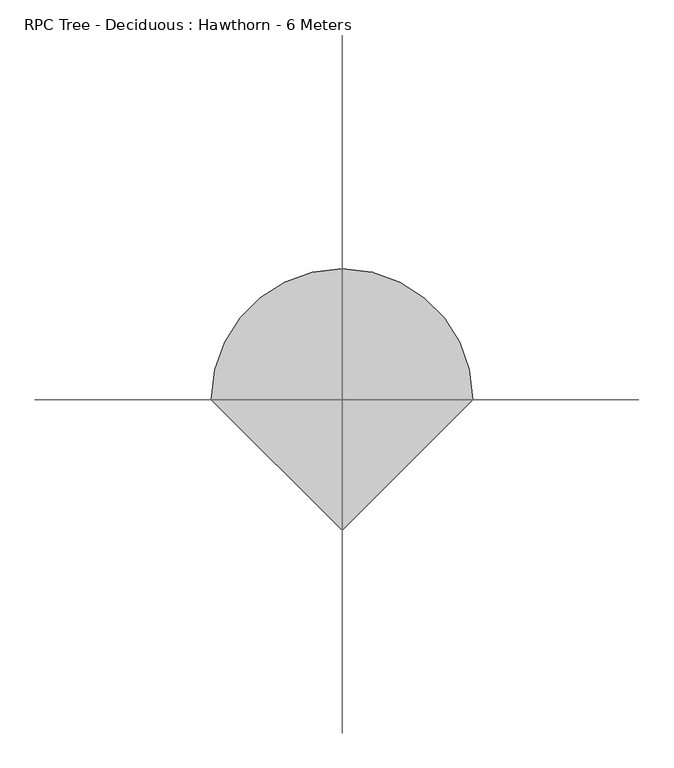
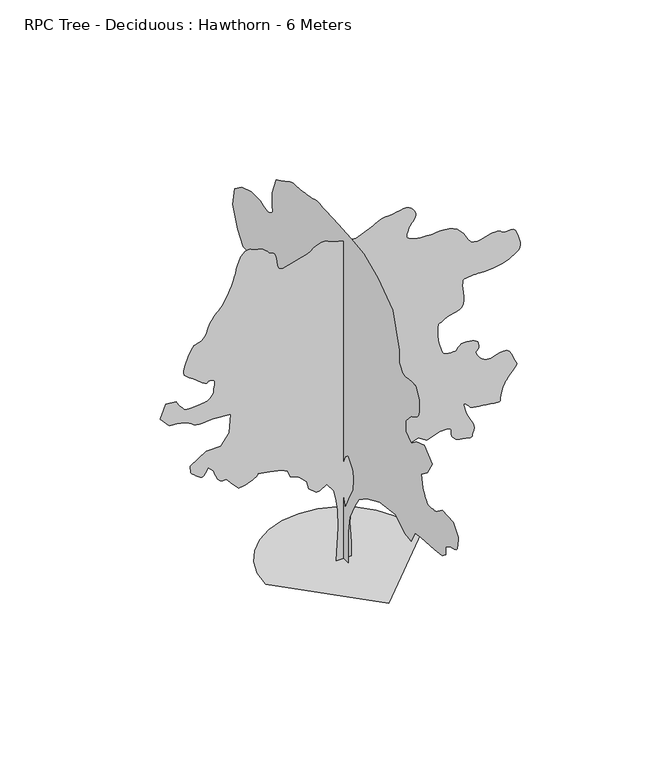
"""IFC4 building model written with IfcOpenShell, lengths in millimetres: geographic element geometry, RPC Tree - Deciduous : Hawthorn - 6 Meters."""

from ifc_helpers import new_model, si_unit, origin, place, context, project, spatial, triangles, source, transform, mapped, element, save


def rpc_tree_deciduous_hawthorn_6_meters_b5c31be1(model_context):
    return source(origin(), model_context, "Body", "Tessellation", [
        triangles([(125.3016722, -0.0003108, 0.0152031), (-121.3314749, -0.0003108, 0.0152031), (-86.0977153, -0.0002761, 581.3634241), (-94.9063073, -0.0002583, 880.8471062), (-130.1392676, -0.0002446, 1109.8629238), (-165.3730272, -0.0002362, 1250.7967632), (-279.8797188, -0.0002268, 1409.3465332), (-394.3895897, -0.0002315, 1330.0707035), (-456.0475267, -0.000232, 1321.2626656), (-579.3634372, -0.0002257, 1426.9626091), (-614.5973694, -0.0002173, 1567.8964485), (-737.9132435, -0.00021, 1691.2123226), (-887.6551208, -0.0002063, 1752.870187), (-931.6970547, -0.0002, 1858.5701305), (-1028.5889603, -0.0001968, 1911.4201023), (-1231.1787746, -0.0001942, 1955.4620361), (-1433.7706238, -0.0001921, 1990.6940426), (-1432.1785698, -0.0001926, 1983.0680546), (-1432.3585007, -0.000193, 1974.9779961), (-1436.0825466, -0.0001936, 1965.9640114), (-1445.1225471, -0.0001942, 1955.5640648), (-1461.2485977, -0.0001949, 1943.3140858), (-1486.236462, -0.0001958, 1928.7540733), (-1521.8544914, -0.0001968, 1911.4201023), (-1561.5804096, -0.0001978, 1894.6000534), (-1598.0723682, -0.0001986, 1881.4761452), (-1631.8663811, -0.0001992, 1871.4360603), (-1663.5063103, -0.0001997, 1863.8600693), (-1693.5262802, -0.0002, 1858.1341106), (-1722.4662289, -0.0002003, 1853.6401989), (-1750.8703091, -0.0002005, 1849.7620926), (-1847.7622147, -0.0001942, 1955.4620361), (-1953.4620129, -0.0001869, 2078.7779102), (-1974.2120544, -0.0001871, 2075.2378647), (-1994.8840485, -0.0001872, 2073.0779675), (-2015.3979126, -0.0001872, 2073.6979877), (-2035.6979816, -0.0001869, 2078.4779285), (-2055.6780121, -0.0001863, 2088.7979382), (-2075.2579216, -0.0001852, 2106.0579311), (-2094.397887, -0.0001837, 2131.6178535), (-2111.737817, -0.000182, 2160.7979038), (-2126.2978294, -0.0001803, 2188.1177479), (-2138.5379253, -0.0001788, 2213.897715), (-2148.9378719, -0.0001773, 2238.4576984), (-2157.9578156, -0.0001759, 2262.0777683), (-2166.0378456, -0.0001746, 2285.0977295), (-2173.6777863, -0.0001732, 2307.7976521), (-2252.9377739, -0.0001685, 2387.0775513), (-2305.7976288, -0.0001732, 2307.7976521), (-2315.3377441, -0.0001741, 2292.9177464), (-2325.5977283, -0.0001749, 2279.4377552), (-2337.2176586, -0.0001755, 2268.7376816), (-2350.937606, -0.0001759, 2262.1777622), (-2367.4177048, -0.000176, 2261.1776779), (-2387.3776783, -0.0001756, 2267.1177223), (-2411.4975723, -0.0001748, 2281.3777531), (-2438.2175983, -0.0001736, 2301.5776829), (-2464.6574089, -0.0001723, 2323.3376919), (-2489.3774117, -0.000171, 2344.9376816), (-2511.0374268, -0.0001698, 2364.6776104), (-2528.2174828, -0.0001689, 2380.877639), (-2539.5374313, -0.0001682, 2391.8375805), (-2543.6174149, -0.000168, 2395.8775955), (-2552.4174591, -0.0001606, 2519.1973938), (-2288.177774, -0.0001506, 2686.5572365), (-2050.357988, -0.0001501, 2695.3572807), (-1909.420079, -0.0001391, 2880.3369781), (-1882.9940758, -0.0001202, 3197.4368088), (-2173.6777863, -0.0001186, 3223.8567078), (-2235.7378063, -0.000119, 3216.5568626), (-2296.4977604, -0.0001194, 3210.816806), (-2354.6376709, -0.0001195, 3208.1367371), (-2408.8576172, -0.0001194, 3210.0967918), (-2457.8174194, -0.0001189, 3218.2166451), (-2500.2375046, -0.000118, 3234.0369003), (-2534.8173706, -0.0001165, 3259.0967079), (-2569.6373383, -0.0001149, 3285.9566963), (-2612.7774376, -0.0001137, 3306.7967033), (-2662.8572296, -0.0001127, 3322.6567818), (-2718.4773811, -0.000112, 3334.4967567), (-2778.2571625, -0.0001115, 3343.3165672), (-2840.8172974, -0.0001111, 3350.1565567), (-2904.7569992, -0.0001107, 3355.9765503), (-3054.4969872, -0.0001008, 3523.336393), (-2966.4168983, -8.71e-05, 3752.3561348), (-2790.2573021, -8.82e-05, 3734.7362801), (-2778.8771828, -8.94e-05, 3714.0163239), (-2767.1973724, -9.06e-05, 3693.5164124), (-2754.8972511, -9.18e-05, 3673.4964134), (-2741.6573616, -9.3e-05, 3654.1563148), (-2727.1971977, -9.41e-05, 3635.7365089), (-2711.1973022, -9.51e-05, 3618.4962822), (-2693.3574028, -9.6e-05, 3602.6164375), (-2679.9774055, -9.69e-05, 3587.6365379), (-2673.6972656, -9.78e-05, 3573.4365326), (-2668.6374001, -9.85e-05, 3560.7765495), (-2658.9574677, -9.91e-05, 3550.436483), (-2638.797361, -9.96e-05, 3543.176461), (-2602.2972633, -9.98e-05, 3539.756321), (-2543.6174149, -9.97e-05, 3540.9565384), (-2478.5774895, -9.95e-05, 3544.7365402), (-2425.5375584, -9.93e-05, 3548.5165421), (-2382.5176552, -9.9e-05, 3552.276487), (-2347.5176113, -9.88e-05, 3556.0564888), (-2318.5376942, -9.86e-05, 3559.8364906), (-2293.5377666, -9.84e-05, 3563.6164925), (-2270.557774, -9.81e-05, 3567.3764374), (-2248.0576939, -9.71e-05, 3584.4564995), (-2226.497818, -9.61e-05, 3602.0763542), (-2206.7778008, -9.5e-05, 3620.7763756), (-2189.8177895, -9.37e-05, 3641.0762993), (-2176.5777546, -9.24e-05, 3663.5563225), (-2167.937875, -9.09e-05, 3688.7164146), (-2164.8578304, -8.92e-05, 3717.1164253), (-2161.7378174, -8.73e-05, 3748.6563606), (-2154.8978279, -8.54e-05, 3781.7363182), (-2148.2178577, -8.34e-05, 3814.6561111), (-2145.5578457, -8.15e-05, 3845.7361908), (-2150.7379074, -7.99e-05, 3873.2560226), (-2167.6378933, -7.86e-05, 3895.556115), (-2200.0978306, -7.77e-05, 3910.9162239), (-2232.6577618, -7.75e-05, 3914.3561302), (-2252.4378044, -7.79e-05, 3907.1559883), (-2267.1177223, -7.85e-05, 3897.0359665), (-2284.4377407, -7.88e-05, 3891.6961761), (-2312.0577118, -7.84e-05, 3898.8361473), (-2357.7175701, -7.68e-05, 3926.1559914), (-2429.1175724, -7.35e-05, 3981.3758766), (-2508.3375916, -6.98e-05, 4042.8759018), (-2572.1575333, -6.71e-05, 4088.3559746), (-2620.2575043, -6.49e-05, 4124.4357491), (-2652.317466, -6.29e-05, 4157.7558083), (-2668.0572029, -6.07e-05, 4194.8956924), (-2667.1572578, -5.79e-05, 4242.5358078), (-2649.3173584, -5.4e-05, 4307.2757515), (-2623.9174553, -4.99e-05, 4376.6157051), (-2600.3773224, -4.64e-05, 4434.8554642), (-2578.3574455, -4.35e-05, 4483.8553802), (-2557.5973755, -4.1e-05, 4525.4554573), (-2537.7375412, -3.89e-05, 4561.5154655), (-2518.4974365, -3.7e-05, 4593.8754089), (-2499.5773705, -3.51e-05, 4624.3752914), (-2463.8574577, -3.47e-05, 4632.1352829), (-2428.97761, -3.41e-05, 4641.115258), (-2395.7976585, -3.35e-05, 4652.5753143), (-2365.1576683, -3.25e-05, 4667.7354355), (-2337.9176159, -3.14e-05, 4687.8153145), (-2314.9177116, -2.98e-05, 4714.0552826), (-2296.977673, -2.78e-05, 4747.6953804), (-2284.1977844, -2.58e-05, 4781.6552261), (-2274.4977951, -2.41e-05, 4810.0552368), (-2265.5577885, -2.25e-05, 4835.9952232), (-2255.0777596, -2.09e-05, 4862.535173), (-2240.7377918, -1.91e-05, 4892.7949539), (-2220.2577919, -1.69e-05, 4929.8147873), (-2191.2778748, -1.41e-05, 4976.7148315), (-2161.0778286, -1.16e-05, 5019.515126), (-2136.2778889, -9.9e-06, 5047.3948196), (-2113.6378464, -8.7e-06, 5068.0150726), (-2089.897871, -7.4e-06, 5089.0951813), (-2061.8578674, -5.7e-06, 5118.3346756), (-2026.2580055, -3e-06, 5163.4545959), (-1979.8859814, 1.1e-06, 5232.1550537), (-1932.1720333, 5.9e-06, 5312.174588), (-1893.7041779, 1.03e-05, 5386.9543259), (-1862.9381779, 1.45e-05, 5457.7343079), (-1838.3361912, 1.86e-05, 5525.734227), (-1818.3561607, 2.26e-05, 5592.1941238), (-1801.4602444, 2.65e-05, 5658.3546204), (-1786.1021702, 3.05e-05, 5725.4144806), (-1767.3822372, 3.45e-05, 5792.7539749), (-1742.0362553, 3.83e-05, 5856.3942764), (-1710.9882957, 4.17e-05, 5912.6338669), (-1675.1643196, 4.43e-05, 5957.7741348), (-1635.4883984, 4.62e-05, 5988.1339096), (-1592.8863476, 4.69e-05, 5999.9942322), (-1548.2784599, 4.62e-05, 5989.6739319), (-1504.0324688, 4.51e-05, 5970.7942703), (-1461.7865009, 4.43e-05, 5957.3142792), (-1421.3926003, 4.36e-05, 5945.9940399), (-1382.6926369, 4.29e-05, 5933.5942154), (-1345.5326958, 4.19e-05, 5916.8743057), (-1309.7607513, 4.05e-05, 5892.5943924), (-1275.2207085, 3.84e-05, 5857.5540894), (-1243.3507061, 3.65e-05, 5826.0542679), (-1215.4888166, 3.55e-05, 5809.5139984), (-1191.3227772, 3.5e-05, 5800.2343323), (-1170.5488272, 3.44e-05, 5790.4744629), (-1152.8548491, 3.33e-05, 5772.5540451), (-1137.9348295, 3.13e-05, 5738.754364), (-1125.4789038, 2.79e-05, 5681.3741455), (-1114.9509127, 2.4e-05, 5616.0542953), (-1104.8848846, 2.08e-05, 5563.1941498), (-1093.5849203, 1.84e-05, 5522.3745483), (-1079.3588991, 1.66e-05, 5493.0943588), (-1060.5089596, 1.56e-05, 5474.9146545), (-1035.3429811, 1.51e-05, 5467.3546509), (-1002.1630297, 1.53e-05, 5469.9742584), (-596.9814025, 2.16e-05, 5575.674202), (-549.7794508, 2.36e-05, 5609.2744766), (-502.5034847, 2.54e-05, 5640.5545441), (-455.0715325, 2.7e-05, 5667.1941971), (-407.4095798, 2.82e-05, 5686.9342712), (-359.4376534, 2.88e-05, 5697.3940979), (-311.0817023, 2.88e-05, 5696.3342789), (-262.2637337, 2.79e-05, 5681.3741455), (-213.9597781, 2.66e-05, 5660.5341385), (-167.0418388, 2.56e-05, 5642.9142838), (-121.2796793, 2.47e-05, 5627.9942642), (-76.4421273, 2.39e-05, 5615.2345779), (-32.2977674, 2.33e-05, 5604.0742126), (11.3841491, 2.27e-05, 5594.0143616), (54.8349433, 2.21e-05, 5584.4945938), (213.3857942, 2.1e-05, 5566.8741577), (460.0175242, 2.73e-05, 5672.5741013), (496.0215039, 2.87e-05, 5695.074472), (532.8734696, 3e-05, 5716.6342026), (571.4194453, 3.11e-05, 5736.3545105), (612.5073807, 3.22e-05, 5753.3145218), (656.9853344, 3.29e-05, 5766.5544113), (705.7013288, 3.35e-05, 5775.1940002), (759.5012426, 3.36e-05, 5778.2740448), (817.8971695, 3.39e-05, 5782.434256), (878.2971165, 3.45e-05, 5792.1342453), (938.3890881, 3.51e-05, 5803.2341492), (995.8610161, 3.56e-05, 5811.5539902), (1048.4029398, 3.57e-05, 5812.9341385), (1093.7029364, 3.51e-05, 5803.2341492), (1129.4508997, 3.36e-05, 5778.2740448), (1157.3388777, 3.17e-05, 5745.7545181), (1179.9888033, 2.99e-05, 5715.5540359), (1196.4747883, 2.82e-05, 5686.7540497), (1205.8747959, 2.65e-05, 5658.3941528), (1207.2607578, 2.48e-05, 5629.5744003), (1199.7107826, 2.3e-05, 5599.3744995), (1182.2988367, 2.1e-05, 5566.8741577), (1160.7288597, 1.93e-05, 5537.2945679), (1141.3148558, 1.79e-05, 5514.6343231), (1124.0568975, 1.68e-05, 5496.1546371), (1108.9568745, 1.58e-05, 5479.0545181), (1096.0149319, 1.47e-05, 5460.5544846), (1085.2288897, 1.34e-05, 5437.9145874), (1076.5988932, 1.16e-05, 5408.31465), (1067.5089684, 9.7e-06, 5376.3945053), (1057.8029474, 8e-06, 5348.1747162), (1051.1769711, 6.5e-06, 5323.0343903), (1051.3309587, 5.2e-06, 5300.3549606), (1061.9629406, 3.9e-06, 5279.5347198), (1086.7689119, 2.7e-06, 5259.9347534), (1129.4508997, 1.6e-06, 5240.9545166), (1183.1208069, 6e-07, 5224.6549301), (1237.4087723, -1e-07, 5212.9748291), (1290.7726662, -5e-07, 5205.13461), (1341.6707222, -8e-07, 5200.394783), (1388.5626274, -9e-07, 5197.9548157), (1429.9085049, -1e-06, 5197.0548706), (1464.1665882, -1e-06, 5196.9147629), (1502.8665516, -9e-07, 5199.0547485), (1555.8964542, -6e-07, 5203.1946121), (1619.2484013, -5e-07, 5205.9345612), (1688.9182766, -6e-07, 5203.914917), (1760.9002201, -1.2e-06, 5193.7149582), (1831.1861916, -2.5e-06, 5171.9546585), (1895.7741096, -4.7e-06, 5135.2551544), (1949.6500362, -7.6e-06, 5086.7546265), (1992.4340527, -1.07e-05, 5034.0747025), (2027.0579567, -1.39e-05, 4980.6349411), (2056.4379948, -1.69e-05, 4929.8147873), (2083.497971, -1.96e-05, 4885.0151962), (2111.1778221, -2.17e-05, 4849.5952652), (2142.3978642, -2.31e-05, 4826.9751343), (2177.4178196, -2.37e-05, 4815.7150658), (2214.2577221, -2.4e-05, 4811.4153282), (2252.6577038, -2.39e-05, 4812.8751228), (2292.2776691, -2.35e-05, 4818.955275), (2332.8176365, -2.3e-05, 4828.5151566), (2373.997681, -2.23e-05, 4840.3751884), (2415.4576504, -2.15e-05, 4853.3950333), (2453.1174156, -2.1e-05, 4860.715226), (2490.1375397, -2.07e-05, 4866.6552704), (2525.9373894, -2.05e-05, 4869.8152519), (2559.8975258, -2.06e-05, 4868.8150223), (2591.3772903, -2.1e-05, 4862.2552483), (2619.777301, -2.18e-05, 4848.7752571), (2644.4772469, -2.31e-05, 4826.9751343), (2672.0174263, -2.4e-05, 4810.9752388), (2707.2373695, -2.41e-05, 4810.0752937), (2747.0971458, -2.37e-05, 4815.6551857), (2788.4972351, -2.35e-05, 4819.0552689), (2828.3573021, -2.4e-05, 4811.695253), (2863.5772453, -2.56e-05, 4784.9152016), (2891.1171341, -2.88e-05, 4730.075235), (2912.8169724, -3.29e-05, 4661.5954033), (2930.9772011, -3.66e-05, 4599.5753517), (2943.1171577, -3.99e-05, 4544.0354279), (2946.7971657, -4.28e-05, 4494.9555748), (2939.5170868, -4.54e-05, 4452.3555588), (2918.8570107, -4.75e-05, 4416.2156136), (2882.2970329, -4.93e-05, 4386.5555054), (2838.617141, -5.09e-05, 4360.2556572), (2796.0171249, -5.24e-05, 4334.7357033), (2751.257357, -5.38e-05, 4310.7557716), (2701.0973373, -5.51e-05, 4289.0756996), (2642.317495, -5.62e-05, 4270.4756721), (2571.67733, -5.71e-05, 4255.7358742), (2485.9375053, -5.77e-05, 4245.6158524), (2402.1176216, -5.8e-05, 4240.515873), (2336.3177135, -5.81e-05, 4239.2557755), (2283.9377712, -5.8e-05, 4240.3158852), (2240.3177593, -5.79e-05, 4242.1358322), (2200.8778702, -5.79e-05, 4243.175885), (2160.9778347, -5.79e-05, 4241.9157875), (2115.9778198, -5.82e-05, 4236.8158081), (2072.5979095, -5.86e-05, 4231.3957901), (2039.7179398, -5.88e-05, 4227.97565), (2015.8980274, -5.9e-05, 4223.1756523), (1999.8039516, -5.96e-05, 4213.5957138), (1990.0199558, -6.07e-05, 4195.8558083), (1985.166037, -6.24e-05, 4166.5558525), (1983.8560879, -6.51e-05, 4122.3158203), (1987.4000576, -6.86e-05, 4062.8560776), (1994.9500328, -7.27e-05, 3994.0160934), (2001.877953, -7.7e-05, 3921.4559875), (2003.5779945, -8.12e-05, 3850.9161072), (1995.4120686, -8.5e-05, 3788.0763382), (1972.7619976, -8.79e-05, 3738.6363327), (1931.0061161, -8.97e-05, 3708.3163811), (1880.2881363, -9.07e-05, 3692.3161949), (1833.7302223, -9.14e-05, 3680.6363846), (1791.1781685, -9.2e-05, 3671.0962692), (1752.4782051, -9.25e-05, 3661.5762108), (1717.4762718, -9.32e-05, 3649.8964005), (1686.0162735, -9.42e-05, 3633.896505), (1657.9483646, -9.55e-05, 3611.4164818), (1633.6543533, -9.66e-05, 3593.8762733), (1613.5224426, -9.69e-05, 3588.6763), (1597.3943573, -9.69e-05, 3587.616481), (1585.1203972, -9.72e-05, 3582.5563248), (1576.5424324, -9.83e-05, 3565.3364456), (1571.5084373, -0.0001005, 3527.756472), (1569.864497, -0.0001044, 3461.6764938), (1573.4604984, -0.0001095, 3377.1767097), (1583.5284885, -0.0001145, 3292.4967041), (1598.9864113, -0.0001193, 3211.8368019), (1618.7603497, -0.0001236, 3139.3368668), (1641.7704277, -0.0001272, 3079.1768761), (1666.9363335, -0.0001298, 3035.4969841), (1693.1822605, -0.0001312, 3012.4571114), (1723.330275, -0.0001317, 3003.6570671), (1758.5641708, -0.000132, 2999.1570511), (1795.3382343, -0.0001321, 2997.8969536), (1830.1102398, -0.000132, 2998.7968987), (1859.332148, -0.0001319, 3000.7770103), (1879.4660934, -0.0001318, 3002.757122), (1886.9660717, -0.0001317, 3003.6570671), (1889.7641567, -0.0001313, 3010.3970627), (1898.5720493, -0.0001303, 3027.4768341), (1914.0061363, -0.000129, 3050.096965), (1936.6820778, -0.0001276, 3073.4969902), (1967.2159698, -0.0001264, 3092.8969688), (2006.2179497, -0.0001258, 3103.4969032), (2054.3179207, -0.000126, 3100.5369095), (2103.9179455, -0.0001266, 3090.4168877), (2146.8778233, -0.0001271, 3081.0770508), (2183.0578823, -0.0001278, 3070.037027), (2212.2978127, -0.0001287, 3054.8370827), (2234.4777088, -0.00013, 3032.996846), (2249.3977283, -0.0001318, 3002.076931), (2256.9177635, -0.0001344, 2959.6170227), (2254.0977322, -0.0001366, 2921.217041), (2241.8577816, -0.0001379, 2899.457032), (2225.9378231, -0.0001387, 2887.2772522), (2212.0177425, -0.0001393, 2877.537149), (2205.8178303, -0.0001401, 2863.1772697), (2212.9977699, -0.0001417, 2837.1172325), (2239.2977634, -0.0001443, 2792.25718), (2275.0777016, -0.0001472, 2743.8171135), (2307.5976643, -0.0001492, 2710.0174324), (2337.9776413, -0.0001505, 2688.2373665), (2367.297654, -0.0001513, 2675.8773651), (2396.5976097, -0.0001516, 2670.2774162), (2426.9775867, -0.0001517, 2668.8373878), (2459.4975494, -0.0001517, 2668.9373817), (2499.7974152, -0.0001512, 2676.6372025), (2549.9574348, -0.0001502, 2693.8971954), (2605.7973404, -0.0001491, 2711.9173164), (2663.1973251, -0.0001485, 2721.9373444), (2717.9774117, -0.0001489, 2715.157235), (2765.9770981, -0.0001509, 2682.7972916), (2803.037336, -0.0001548, 2616.0775269), (2832.277121, -0.0001592, 2542.2773804), (2857.9770058, -0.0001623, 2490.5174583), (2877.6772568, -0.0001645, 2454.7574318), (2888.8972115, -0.000166, 2429.0376354), (2889.1971931, -0.0001673, 2407.297538), (2876.0570068, -0.0001687, 2383.5776196), (2847.0770897, -0.0001706, 2351.8376965), (2812.9971931, -0.0001727, 2316.8376526), (2785.5773552, -0.0001745, 2286.7977711), (2763.6571815, -0.0001762, 2260.8776962), (2746.1573776, -0.0001776, 2238.2577106), (2731.9771385, -0.0001789, 2218.1178062), (2720.0174034, -0.0001802, 2199.6378296), (2709.1573105, -0.0001814, 2181.9578041), (2706.4571846, -0.0001811, 2183.897802), (2702.7771767, -0.000181, 2182.7778122), (2697.1571709, -0.0001813, 2175.6177841), (2688.6172852, -0.0001822, 2159.377787), (2676.1773468, -0.0001838, 2131.0378017), (2658.8374168, -0.0001864, 2087.5578976), (2635.6774933, -0.00019, 2025.9379669), (2618.2175125, -0.0001938, 1963.0380272), (2613.5372749, -0.0001965, 1916.4780785), (2613.9372505, -0.0001985, 1884.2501038), (2611.7373848, -0.0001996, 1864.3481209), (2599.1974525, -0.0002002, 1854.7702171), (2568.6373993, -0.0002003, 1853.5101196), (2512.3574043, -0.0002, 1858.5701305), (2443.7176987, -0.0001995, 1866.3761948), (2380.6176258, -0.000199, 1874.6461842), (2322.1376198, -0.0001985, 1883.3001617), (2267.3576786, -0.000198, 1892.2621147), (2215.3578003, -0.0001974, 1901.4560303), (2165.2178375, -0.0001969, 1910.8041515), (2115.9778198, -0.0001963, 1920.2281403), (2084.2979221, -0.000194, 1959.0060059), (2054.9979664, -0.000192, 1992.6199425), (2030.4580399, -0.0001906, 2015.917939), (2013.098053, -0.0001901, 2023.7180443), (2005.2979477, -0.0001909, 2010.877985), (2009.4379566, -0.0001932, 1972.2300533), (2027.8980217, -0.0001974, 1902.6120644), (2057.4379337, -0.0002022, 1821.9241116), (2090.4979797, -0.0002063, 1752.1761887), (2123.1179363, -0.00021, 1691.3662376), (2151.2577885, -0.0002132, 1637.4884216), (2170.9378372, -0.0002161, 1588.5424267), (2178.1177769, -0.0002188, 1542.5244507), (2168.8378201, -0.0002215, 1497.4285114), (2155.0377903, -0.0002239, 1457.3944725), (2148.0377815, -0.0002257, 1427.3726131), (2142.7179028, -0.0002269, 1406.5985905), (2134.0178524, -0.0002277, 1394.2965797), (2116.8379417, -0.0002279, 1389.7006393), (2086.0979576, -0.0002278, 1392.0365433), (2036.6979206, -0.0002273, 1400.5366058), (1981.4940228, -0.0002266, 1411.5285221), (1935.8340191, -0.000226, 1422.6746441), (1898.4941471, -0.0002252, 1435.2065826), (1868.244104, -0.0002243, 1450.35653), (1843.8482094, -0.0002232, 1469.3606026), (1824.0741257, -0.0002218, 1493.4485218), (1807.690242, -0.0002199, 1523.8545147), (1797.340147, -0.000218, 1556.6484432), (1793.9262566, -0.0002162, 1586.6684132), (1793.5922653, -0.0002146, 1613.2983284), (1792.4882629, -0.0002133, 1635.9223835), (1786.7602695, -0.0002122, 1653.924337), (1772.5602642, -0.0002114, 1666.6863487), (1746.0322323, -0.000211, 1673.5963921), (1714.6242657, -0.0002108, 1676.6002785), (1687.8402901, -0.0002107, 1678.2183483), (1664.9084049, -0.0002107, 1678.6803841), (1645.056419, -0.0002107, 1678.2183483), (1627.5183907, -0.0002108, 1677.0623142), (1611.5183498, -0.0002109, 1675.4443897), (1596.2903549, -0.000211, 1673.5963921), (1384.8906132, -0.0002157, 1594.320417), (1243.9567738, -0.00021, 1691.2123226), (1087.3329037, -0.0002129, 1634.2184177), (1110.9088629, -0.0002139, 1619.9223427), (1131.188875, -0.0002148, 1605.1283329), (1144.8768476, -0.0002159, 1589.3384537), (1148.6768337, -0.000217, 1572.0524448), (1139.2928862, -0.0002182, 1552.772517), (1113.4308746, -0.0002195, 1531.0004448), (1067.7929626, -0.000221, 1506.2365494), (1018.4869606, -0.0002223, 1484.5125847), (980.7350498, -0.0002231, 1471.568462), (949.9190529, -0.0002234, 1466.48447), (921.4150515, -0.0002232, 1468.3324677), (890.5991272, -0.0002228, 1476.192453), (852.8491785, -0.000222, 1489.1345409), (803.5431765, -0.000221, 1506.2365494), (574.5254331, -0.0002168, 1576.7044865), (363.125655, -0.0002236, 1462.196505), (204.5757942, -0.0002362, 1250.7967632), (151.7268489, -0.0002451, 1101.0548859), (134.1096648, -0.0002562, 916.0810747), (107.6852966, -0.0002745, 607.789391), (125.3016722, -0.0002966, 237.8397703), (-9.68e-05, 124.0064751, 0.0126444), (-9.68e-05, -131.4368719, 0.0126596), (-7.97e-05, -139.9516592, 553.4734477), (-6.83e-05, -182.5254141, 834.4611294), (-5.69e-05, -318.7616841, 1115.4489201), (-5.13e-05, -446.4835393, 1302.7726604), (-4.56e-05, -667.867301, 1456.038596), (-3.42e-05, -1051.0329391, 1626.334306), (-2.28e-05, -1502.3164398, 1677.4223213), (-2.28e-05, -1766.2741653, 1515.6425159), (-2.28e-05, -1962.114101, 1490.0985809), (-1.71e-05, -2072.7978973, 1702.9682911), (-1.14e-05, -2251.6177963, 1728.5122261), (-5.7e-06, -2626.2574287, 1754.0563065), (0.0, -2847.6572868, 1771.0862263), (5.7e-06, -2958.337159, 1856.2340813), (5.7e-06, -2949.8370964, 1992.4699516), (1.14e-05, -3086.0569794, 2077.617952), (1.14e-05, -3124.1767456, 2085.0179363), (1.14e-05, -3161.0169388, 2093.0178841), (1.14e-05, -3195.31688, 2102.197847), (1.71e-05, -3225.8167625, 2113.1579338), (1.71e-05, -3251.2768364, 2126.5178741), (1.71e-05, -3270.3768333, 2142.8578651), (1.71e-05, -3281.8967697, 2162.7578133), (1.71e-05, -3288.6966454, 2186.637751), (1.71e-05, -3294.6166328, 2214.0978481), (1.71e-05, -3299.776783, 2244.5377052), (2.28e-05, -3304.3366791, 2277.357795), (2.28e-05, -3308.4567764, 2311.9577179), (2.28e-05, -3312.2966583, 2347.7577129), (2.28e-05, -3315.9566093, 2384.1576714), (2.85e-05, -3171.2168976, 2562.9575134), (2.28e-05, -2856.1570587, 2579.9974617), (1.71e-05, -2668.8373878, 2443.7575218), (1.71e-05, -2657.3973885, 2441.4974854), (1.71e-05, -2627.3373047, 2436.0975243), (1.71e-05, -2585.0573273, 2429.6775673), (1.14e-05, -2536.9774132, 2424.2975178), (1.14e-05, -2489.4774055, 2422.0376266), (1.14e-05, -2448.9976089, 2424.9775635), (1.14e-05, -2421.9175758, 2435.2375477), (1.14e-05, -2403.4175423, 2452.5575661), (1.14e-05, -2384.4775646, 2474.8175446), (1.14e-05, -2365.1576683, 2501.1374496), (1.14e-05, -2345.5577019, 2530.757444), (1.71e-05, -2325.7176338, 2562.8374626), (1.71e-05, -2305.7377487, 2596.5574974), (1.71e-05, -2285.6777813, 2631.0774834), (2.28e-05, -2243.0978222, 2843.957222), (2.85e-05, -2421.9175758, 2980.1771049), (3.99e-05, -2558.1575157, 3210.0767349), (3.99e-05, -2336.7576576, 3414.4366447), (3.42e-05, -2106.8578823, 3337.7965553), (2.85e-05, -1962.114101, 3218.5968544), (2.85e-05, -1800.3322609, 3329.2967834), (3.42e-05, -1800.3322609, 3516.6164543), (4.56e-05, -1953.5980511, 3686.9162338), (4.56e-05, -1986.3419827, 3705.1363426), (4.56e-05, -2018.4980141, 3723.1962868), (4.56e-05, -2049.437986, 3740.9763062), (4.56e-05, -2078.6178909, 3758.2961792), (4.56e-05, -2105.3979424, 3775.0361458), (5.13e-05, -2129.1979431, 3791.016275), (5.13e-05, -2149.4378414, 3806.1162254), (5.13e-05, -2165.1977806, 3827.1762772), (5.13e-05, -2176.4978176, 3859.8362022), (5.13e-05, -2184.0778782, 3902.1961166), (5.69e-05, -2188.6578312, 3952.2759087), (5.69e-05, -2191.0178616, 4008.1960419), (5.69e-05, -2191.8977497, 4067.956057), (5.69e-05, -2192.0178005, 4129.6758362), (6.26e-05, -2081.3178715, 4299.9756157), (6.26e-05, -2077.3179703, 4300.8956177), (6.26e-05, -2066.0379902, 4303.1556541), (6.26e-05, -2048.4780155, 4306.015654), (6.26e-05, -2025.7179222, 4308.7157799), (6.26e-05, -1998.7800316, 4310.51567), (6.26e-05, -1968.7160236, 4310.6956009), (6.26e-05, -1936.5700207, 4308.4957352), (6.26e-05, -1902.4120766, 4303.5556297), (5.69e-05, -1866.6141163, 4297.1156158), (5.69e-05, -1830.6681999, 4290.8357666), (5.69e-05, -1796.0642075, 4286.3357506), (5.69e-05, -1764.2882401, 4285.2756409), (5.69e-05, -1736.8322124, 4289.2756874), (5.69e-05, -1715.1862953, 4299.9756157), (5.69e-05, -1697.6843113, 4315.3156677), (5.69e-05, -1681.5242512, 4331.9957542), (5.69e-05, -1666.480402, 4349.7955399), (5.69e-05, -1652.3303936, 4368.4955612), (5.69e-05, -1638.8504025, 4387.8557167), (5.69e-05, -1625.8163143, 4407.6556709), (5.69e-05, -1613.0083752, 4427.6954361), (6.83e-05, -1604.4923252, 4640.5554085), (7.97e-05, -1425.6826, 5236.594899), (8.54e-05, -991.4290192, 5551.6547379), (8.54e-05, -582.7194097, 5721.9344604), (7.97e-05, -208.0697851, 5773.0342484), (7.4e-05, 158.0654427, 5798.5739685), (6.83e-05, 515.6854926, 5815.6142075), (6.83e-05, 547.0394654, 5817.3943314), (6.83e-05, 593.435398, 5821.5539612), (6.83e-05, 649.0673584, 5826.333902), (6.83e-05, 708.1253088, 5829.8941498), (6.83e-05, 764.7992477, 5830.4941132), (6.26e-05, 813.2811722, 5826.333902), (6.26e-05, 847.7631517, 5815.6142075), (6.26e-05, 883.2371492, 5801.9941086), (6.26e-05, 934.4990639, 5790.1942474), (6.26e-05, 995.4430183, 5779.8541809), (6.26e-05, 1059.9609552, 5770.7140411), (5.69e-05, 1121.9468519, 5762.4744278), (5.69e-05, 1175.2948311, 5754.8341965), (5.69e-05, 1213.8967627, 5747.4945282), (5.69e-05, 1249.2967094, 5742.4140244), (5.69e-05, 1294.8247444, 5740.3345001), (5.69e-05, 1347.0546959, 5738.9944656), (5.13e-05, 1402.562645, 5736.1742889), (5.13e-05, 1457.9206032, 5729.6142242), (5.13e-05, 1509.7045063, 5717.0940582), (5.13e-05, 1554.4884007, 5696.3941589), (5.13e-05, 1597.8563931, 5670.1143677), (4.56e-05, 1647.0343506, 5642.4741943), (4.56e-05, 1701.0522743, 5613.7346695), (4.56e-05, 1758.9422001, 5584.0946182), (3.99e-05, 1819.7381985, 5553.7743759), (3.99e-05, 1882.4680904, 5523.0146255), (3.99e-05, 1946.1679813, 5492.0345398), (2.85e-05, 2065.3780014, 5194.0347061), (1.71e-05, 2056.8578819, 4921.5548264), (1.71e-05, 2049.8779301, 4908.7149124), (1.71e-05, 2044.8379761, 4895.5151367), (1.71e-05, 2043.6780178, 4881.5549423), (1.71e-05, 2048.3179962, 4866.4951057), (1.71e-05, 2060.7179661, 4849.93507), (1.71e-05, 2082.7779568, 4831.5152641), (1.71e-05, 2116.4578777, 4810.855188), (1.71e-05, 2156.8578827, 4794.43526), (1.14e-05, 2197.6978317, 4787.8153152), (1.14e-05, 2238.8977879, 4789.4152176), (1.14e-05, 2280.3977257, 4797.5551277), (1.14e-05, 2322.1376198, 4810.6150864), (1.14e-05, 2364.0176216, 4826.9550774), (1.14e-05, 2405.9576488, 4844.9150276), (5.7e-06, 2669.9172638, 4844.9150276), (0.0, 2933.8770241, 4759.7751663), (-5.7e-06, 3146.7567627, 4606.5153351), (-1.71e-05, 3197.8367844, 4308.4957352), (-2.28e-05, 3053.0970726, 3950.8759941), (-2.85e-05, 2899.8171844, 3737.9962555), (-2.85e-05, 2872.2371819, 3737.8561478), (-2.85e-05, 2843.3970818, 3736.8163857), (-2.85e-05, 2812.0173111, 3733.976152), (-2.85e-05, 2776.837191, 3728.4761971), (-2.85e-05, 2736.5972054, 3719.3761711), (-2.85e-05, 2690.0372566, 3705.8362999), (-2.28e-05, 2635.8574242, 3686.9162338), (-2.28e-05, 2581.5174271, 3668.6964157), (-2.28e-05, 2534.7775475, 3655.8364449), (-2.28e-05, 2494.8773666, 3645.3562706), (-2.28e-05, 2461.0974518, 3634.2764236), (-2.28e-05, 2432.6775295, 3619.6363289), (-2.28e-05, 2408.8775288, 3598.4364601), (-2.28e-05, 2388.9376122, 3567.696476), (-2.85e-05, 2369.4175827, 3523.5965515), (-2.85e-05, 2348.577721, 3467.1165688), (-2.85e-05, 2328.1576012, 3402.5966698), (-2.85e-05, 2309.9976631, 3334.356649), (-3.42e-05, 2295.8377716, 3266.7165916), (-3.42e-05, 2287.4977283, 3203.9768166), (-3.42e-05, 2286.7576572, 3150.4768845), (-3.99e-05, 2293.8377483, 3095.7569687), (-3.99e-05, 2306.8577385, 3030.7769234), (-3.99e-05, 2324.5177071, 2961.917173), (-4.56e-05, 2345.4376511, 2895.5770363), (-4.56e-05, 2368.2975929, 2838.1971085), (-5.13e-05, 2391.7576435, 2796.1371758), (-5.13e-05, 2414.477623, 2775.837252), (-5.13e-05, 2441.5375992, 2770.1771324), (-5.13e-05, 2476.6374916, 2765.997155), (-5.13e-05, 2516.3574509, 2760.6373077), (-5.13e-05, 2557.2773369, 2751.3971741), (-5.13e-05, 2595.9374771, 2735.6173233), (-5.69e-05, 2628.9572639, 2710.5973389), (-5.69e-05, 2652.8973724, 2673.6574425), (-5.69e-05, 2671.4572861, 2630.8373817), (-5.69e-05, 2689.8773827, 2589.6372803), (-6.26e-05, 2706.9571541, 2549.6574532), (-6.26e-05, 2721.5173119, 2510.3973495), (-6.26e-05, 2732.337291, 2471.4575752), (-6.26e-05, 2738.2372215, 2432.3576363), (-6.83e-05, 2738.0372337, 2392.6575886), (-6.83e-05, 2731.1571304, 2353.7576374), (-6.83e-05, 2718.4773811, 2317.0976658), (-6.83e-05, 2700.9572296, 2282.2977551), (-6.83e-05, 2679.557373, 2248.9776958), (-6.83e-05, 2655.2574028, 2216.7777718), (-6.83e-05, 2629.0174347, 2185.3378304), (-6.83e-05, 2601.7972939, 2154.257896), (-7.97e-05, 2618.8372421, 1881.7781616), (-8.54e-05, 2891.3171219, 1847.7181767), (-8.54e-05, 3172.2967735, 1992.4699516), (-8.54e-05, 3419.2165855, 1992.4699516), (-9.68e-05, 3615.0563759, 1830.6901463), (-0.0001025, 3623.5764954, 1626.334306), (-0.0001025, 3427.736705, 1439.0105656), (-9.68e-05, 2967.9371544, 1430.4945156), (-9.68e-05, 2678.4373833, 1387.9206608), (-9.68e-05, 2670.7773857, 1351.6526711), (-9.68e-05, 2660.8573517, 1316.7247158), (-9.68e-05, 2646.4974724, 1284.4787189), (-9.68e-05, 2625.4173637, 1256.2526802), (-9.68e-05, 2595.3973938, 1233.3888142), (-9.68e-05, 2554.2173492, 1217.228754), (-9.68e-05, 2499.6375412, 1209.1107903), (-9.68e-05, 2441.0975098, 1207.9187845), (-9.68e-05, 2388.9576691, 1211.0467913), (-9.68e-05, 2342.3376949, 1217.6007517), (-9.11e-05, 2300.3376423, 1226.6867523), (-9.11e-05, 2262.0577114, 1237.410807), (-9.11e-05, 2226.6177235, 1248.8787117), (-9.11e-05, 2193.0978218, 1260.1988056), (-9.11e-05, 2158.857906, 1275.838694), (-9.11e-05, 2122.5378845, 1298.7766834), (-8.54e-05, 2085.1779556, 1325.8846218), (-8.54e-05, 2047.8178814, 1354.0366825), (-8.54e-05, 2011.4980053, 1380.1006439), (-8.54e-05, 1977.2740768, 1400.9546036), (-8.54e-05, 1946.1679813, 1413.4645958), (-7.4e-05, 1545.9743855, 1524.1584206), (-6.83e-05, 1171.3228352, 1592.2763557), (-6.26e-05, 668.9513191, 1473.0685158), (-6.26e-05, 336.8756584, 1294.2586452), (-6.83e-05, 209.1537851, 1030.3009924), (-7.97e-05, 124.0064751, 621.5913465), (-9.11e-05, 124.0064751, 280.9997267), (5.7e-06, -276.1877203, 1711.4823063), (5.7e-06, -301.7316916, 1566.730386), (0.0, -276.1877203, 1379.4066456), (-1.14e-05, -174.0106177, 1192.0807978), (-1.71e-05, -54.803945, 928.1230722), (-1.71e-05, 21.8291772, 1132.4768778), (-5.7e-06, 64.4029366, 1370.8905956), (0.0, 38.8585611, 1626.334306), (5.7e-06, -54.803945, 1822.1742416), (1.14e-05, -139.9516592, 1890.2921768), (-2.85e-05, 873.3071594, 2179.7977615), (-2.85e-05, 677.4672964, 2094.6378433), (-2.85e-05, 447.5675574, 1941.3820816), (-3.42e-05, 362.4196298, 1754.0563065), (-3.99e-05, 345.3896373, 1558.2163708), (-4.56e-05, 345.3896373, 1413.4645958), (-4.56e-05, 481.6275061, 1464.5545006), (-4.56e-05, 711.5253193, 1541.186451), (-4.56e-05, 873.3071594, 1609.3064209), (-4.56e-05, 958.4550144, 1702.9682911), (-3.99e-05, 1043.6029421, 1898.8080814), (-3.42e-05, 915.8810869, 1932.8660316), (-3.42e-05, 864.7911095, 2018.0179562), (-1299.4087669, 0.0, 7.75e-05), (-1265.056794, 297.7376949, 5.97e-05), (-1167.2228674, 571.163429, 4.34e-05), (-1013.7389946, 812.4411798, 2.9e-05), (-812.4411798, 1013.7389946, 1.7e-05), (-571.163429, 1167.2208326, 7.9e-06), (-297.7376949, 1265.056794, 2e-06), (5.13e-05, 1299.4087669, 0.0), (297.7376949, 1265.056794, 2e-06), (571.163429, 1167.2208326, 7.9e-06), (812.4411798, 1013.7389946, 1.7e-05), (1013.7389946, 812.4411798, 2.9e-05), (1167.2208326, 571.163429, 4.34e-05), (1265.056794, 297.7376949, 5.97e-05), (1299.4087669, -0.0001136, 7.75e-05), (-0.0001765, -1299.4087669, 0.0001549)], [[404, 403, 405], [2, 1, 3], [1, 491, 3], [491, 490, 3], [3, 490, 4], [490, 489, 4], [4, 489, 5], [489, 488, 5], [85, 84, 86], [86, 84, 87], [84, 83, 87], [87, 83, 88], [88, 83, 89], [89, 83, 90], [83, 82, 90], [90, 82, 91], [91, 82, 92], [82, 81, 92], [92, 81, 93], [93, 81, 94], [94, 81, 95], [95, 81, 96], [96, 81, 97], [81, 80, 97], [97, 80, 98], [80, 79, 98], [98, 79, 99], [79, 78, 99], [99, 78, 100], [78, 77, 100], [100, 77, 101], [5, 488, 6], [488, 487, 6], [77, 76, 101], [101, 76, 102], [76, 75, 102], [75, 74, 102], [74, 73, 102], [102, 73, 103], [73, 72, 103], [103, 72, 104], [72, 71, 104], [104, 71, 105], [71, 70, 105], [105, 70, 106], [106, 70, 107], [70, 69, 107], [69, 68, 107], [107, 68, 108], [108, 68, 109], [109, 68, 110], [110, 68, 111], [111, 68, 112], [64, 63, 65], [63, 62, 65], [62, 61, 65], [61, 60, 65], [60, 59, 65], [59, 58, 65], [58, 57, 65], [57, 56, 65], [56, 55, 65], [55, 54, 65], [54, 53, 65], [53, 52, 65], [52, 51, 65], [51, 50, 65], [50, 49, 65], [49, 48, 65], [65, 48, 66], [48, 47, 66], [31, 30, 32], [468, 467, 469], [6, 487, 7], [487, 486, 7], [112, 68, 113], [9, 8, 10], [8, 7, 10], [10, 7, 11], [30, 29, 32], [415, 414, 416], [416, 414, 417], [414, 413, 417], [417, 413, 418], [413, 412, 418], [418, 412, 419], [142, 141, 143], [412, 411, 419], [419, 411, 420], [13, 12, 14], [29, 28, 32], [425, 424, 426], [28, 27, 32], [443, 442, 444], [442, 441, 444], [444, 441, 445], [441, 440, 445], [445, 440, 446], [440, 439, 446], [446, 439, 447], [439, 438, 447], [438, 437, 447], [437, 436, 447], [447, 436, 448], [436, 435, 448], [448, 435, 449], [449, 435, 450], [450, 435, 451], [451, 435, 452], [452, 435, 453], [453, 435, 454], [454, 435, 455], [455, 435, 456], [435, 434, 456], [456, 434, 457], [434, 433, 457], [457, 433, 458], [433, 432, 458], [458, 432, 459], [432, 431, 459], [459, 431, 460], [460, 431, 461], [431, 430, 461], [461, 430, 462], [462, 430, 463], [463, 430, 464], [420, 411, 421], [411, 410, 421], [421, 410, 422], [410, 409, 422], [422, 409, 423], [409, 408, 423], [423, 408, 424], [424, 408, 426], [426, 408, 427], [427, 408, 428], [408, 407, 428], [464, 430, 465], [407, 406, 428], [474, 473, 475], [473, 472, 475], [475, 472, 476], [472, 471, 476], [476, 471, 477], [471, 470, 477], [477, 470, 478], [478, 470, 479], [479, 470, 480], [480, 470, 481], [481, 470, 482], [482, 470, 483], [483, 470, 484], [484, 470, 485], [428, 406, 429], [27, 26, 32], [113, 68, 114], [26, 25, 32], [32, 25, 33], [25, 24, 33], [24, 23, 33], [23, 22, 33], [22, 21, 33], [21, 20, 33], [20, 19, 33], [19, 18, 33], [18, 17, 33], [47, 46, 66], [465, 430, 466], [46, 45, 66], [45, 44, 66], [44, 43, 66], [43, 42, 66], [42, 41, 66], [41, 40, 66], [40, 39, 66], [39, 38, 66], [38, 37, 66], [37, 36, 66], [36, 35, 66], [35, 34, 66], [34, 33, 66], [33, 17, 66], [66, 17, 67], [17, 16, 67], [16, 15, 67], [67, 15, 68], [114, 68, 115], [115, 68, 116], [116, 68, 117], [466, 430, 467], [467, 430, 469], [430, 429, 469], [405, 403, 406], [125, 124, 126], [124, 123, 126], [126, 123, 127], [406, 403, 429], [403, 402, 429], [402, 401, 429], [401, 400, 429], [400, 399, 429], [123, 122, 127], [127, 122, 128], [7, 486, 11], [11, 486, 12], [486, 485, 12], [12, 485, 14], [395, 394, 396], [394, 393, 396], [396, 393, 397], [393, 392, 397], [397, 392, 398], [392, 391, 398], [398, 391, 399], [399, 391, 429], [391, 390, 429], [390, 389, 429], [389, 388, 429], [388, 387, 429], [387, 386, 429], [386, 385, 429], [385, 384, 429], [384, 383, 429], [383, 382, 429], [382, 381, 429], [381, 380, 429], [380, 379, 429], [379, 378, 429], [378, 377, 429], [377, 376, 429], [429, 376, 469], [376, 375, 469], [375, 374, 469], [469, 374, 470], [470, 374, 485], [485, 374, 14], [374, 373, 14], [14, 373, 15], [15, 373, 68], [68, 373, 117], [117, 373, 118], [118, 373, 119], [373, 372, 119], [119, 372, 120], [326, 325, 327], [327, 325, 328], [325, 324, 328], [324, 323, 328], [328, 323, 329], [329, 323, 330], [323, 322, 330], [330, 322, 331], [322, 321, 331], [331, 321, 332], [321, 320, 332], [332, 320, 333], [320, 319, 333], [176, 175, 177], [175, 174, 177], [174, 173, 177], [177, 173, 178], [173, 172, 178], [178, 172, 179], [172, 171, 179], [171, 170, 179], [179, 170, 180], [180, 170, 181], [181, 170, 182], [182, 170, 183], [183, 170, 184], [170, 169, 184], [184, 169, 185], [169, 168, 185], [185, 168, 186], [168, 167, 186], [167, 166, 186], [186, 166, 187], [187, 166, 188], [188, 166, 189], [189, 166, 190], [190, 166, 191], [191, 166, 192], [192, 166, 193], [193, 166, 194], [194, 166, 195], [166, 165, 195], [165, 164, 195], [195, 164, 196], [164, 163, 196], [163, 162, 196], [196, 162, 197], [162, 161, 197], [161, 160, 197], [290, 289, 291], [291, 289, 292], [289, 288, 292], [292, 288, 293], [288, 287, 293], [293, 287, 294], [287, 286, 294], [294, 286, 295], [295, 286, 296], [296, 286, 297], [297, 286, 298], [298, 286, 299], [299, 286, 300], [300, 286, 301], [301, 286, 302], [302, 286, 303], [303, 286, 304], [304, 286, 305], [305, 286, 306], [286, 285, 306], [306, 285, 307], [285, 284, 307], [284, 283, 307], [283, 282, 307], [282, 281, 307], [281, 280, 307], [280, 279, 307], [279, 278, 307], [278, 277, 307], [277, 276, 307], [276, 275, 307], [307, 275, 308], [308, 275, 309], [275, 274, 309], [309, 274, 310], [274, 273, 310], [310, 273, 311], [311, 273, 312], [273, 272, 312], [312, 272, 313], [272, 271, 313], [313, 271, 314], [314, 271, 315], [315, 271, 316], [271, 270, 316], [316, 270, 317], [270, 269, 317], [269, 268, 317], [268, 267, 317], [267, 266, 317], [266, 265, 317], [265, 264, 317], [264, 263, 317], [263, 262, 317], [262, 261, 317], [261, 260, 317], [260, 259, 317], [259, 258, 317], [258, 257, 317], [257, 256, 317], [317, 256, 318], [256, 255, 318], [255, 254, 318], [254, 253, 318], [253, 252, 318], [318, 252, 319], [319, 252, 333], [333, 252, 334], [334, 252, 335], [335, 252, 336], [336, 252, 337], [337, 252, 338], [252, 251, 338], [251, 250, 338], [250, 249, 338], [338, 249, 339], [249, 248, 339], [370, 369, 371], [371, 369, 372], [369, 368, 372], [368, 367, 372], [367, 366, 372], [366, 365, 372], [365, 364, 372], [364, 363, 372], [363, 362, 372], [362, 361, 372], [361, 360, 372], [360, 359, 372], [359, 358, 372], [358, 357, 372], [357, 356, 372], [356, 355, 372], [355, 354, 372], [339, 248, 340], [141, 140, 143], [143, 140, 144], [140, 139, 144], [354, 353, 372], [133, 132, 134], [132, 131, 134], [134, 131, 135], [131, 130, 135], [135, 130, 136], [130, 129, 136], [136, 129, 137], [129, 128, 137], [128, 122, 137], [137, 122, 138], [138, 122, 139], [139, 122, 144], [144, 122, 145], [145, 122, 146], [122, 121, 146], [146, 121, 147], [121, 120, 147], [147, 120, 148], [148, 120, 149], [149, 120, 150], [150, 120, 151], [151, 120, 152], [152, 120, 153], [153, 120, 154], [154, 120, 155], [155, 120, 156], [156, 120, 157], [157, 120, 158], [158, 120, 159], [159, 120, 160], [160, 120, 197], [197, 120, 198], [198, 120, 199], [228, 227, 229], [229, 227, 230], [227, 226, 230], [230, 226, 231], [226, 225, 231], [231, 225, 232], [232, 225, 233], [233, 225, 234], [234, 225, 235], [235, 225, 236], [236, 225, 237], [237, 225, 238], [238, 225, 239], [239, 225, 240], [225, 224, 240], [240, 224, 241], [224, 223, 241], [241, 223, 242], [223, 222, 242], [242, 222, 243], [243, 222, 244], [244, 222, 245], [222, 221, 245], [221, 220, 245], [220, 219, 245], [219, 218, 245], [245, 218, 246], [218, 217, 246], [217, 216, 246], [216, 215, 246], [246, 215, 247], [215, 214, 247], [247, 214, 248], [248, 214, 340], [214, 213, 340], [213, 212, 340], [212, 211, 340], [340, 211, 341], [211, 210, 341], [210, 209, 341], [341, 209, 342], [209, 208, 342], [208, 207, 342], [342, 207, 343], [207, 206, 343], [206, 205, 343], [205, 204, 343], [204, 203, 343], [203, 202, 343], [202, 201, 343], [201, 200, 343], [200, 199, 343], [199, 120, 343], [343, 120, 344], [344, 120, 345], [345, 120, 346], [346, 120, 347], [347, 120, 348], [353, 352, 372], [352, 351, 372], [351, 350, 372], [350, 349, 372], [372, 349, 120], [120, 349, 348], [741, 733, 742], [733, 741, 734], [731, 492, 732], [732, 492, 733], [492, 728, 733], [728, 727, 733], [734, 741, 735], [742, 733, 743], [743, 733, 744], [735, 741, 736], [727, 726, 733], [733, 726, 744], [726, 725, 744], [725, 724, 744], [744, 724, 745], [745, 724, 746], [724, 723, 746], [746, 723, 747], [747, 723, 748], [736, 741, 737], [493, 492, 494], [748, 723, 749], [543, 542, 544], [544, 542, 545], [542, 541, 545], [545, 541, 546], [502, 501, 503], [501, 500, 503], [723, 722, 749], [507, 506, 508], [506, 505, 508], [642, 641, 643], [737, 741, 738], [697, 696, 698], [696, 695, 698], [698, 695, 699], [695, 694, 699], [694, 693, 699], [699, 693, 700], [693, 692, 700], [524, 523, 525], [523, 522, 525], [522, 521, 525], [525, 521, 526], [521, 520, 526], [520, 519, 526], [519, 518, 526], [518, 517, 526], [517, 516, 526], [516, 515, 526], [515, 514, 526], [514, 513, 526], [513, 512, 526], [512, 511, 526], [511, 510, 526], [510, 509, 526], [509, 508, 526], [508, 505, 526], [526, 505, 527], [527, 505, 528], [528, 505, 529], [529, 505, 530], [505, 504, 530], [530, 504, 531], [531, 504, 532], [532, 504, 533], [504, 503, 533], [533, 503, 534], [534, 503, 535], [503, 500, 535], [535, 500, 536], [536, 500, 537], [537, 500, 538], [538, 500, 539], [539, 500, 540], [540, 500, 541], [541, 500, 546], [546, 500, 547], [500, 499, 547], [643, 641, 644], [639, 638, 640], [640, 638, 641], [638, 637, 641], [641, 637, 644], [644, 637, 645], [645, 637, 646], [637, 636, 646], [646, 636, 647], [636, 635, 647], [635, 634, 647], [647, 634, 648], [648, 634, 649], [634, 633, 649], [649, 633, 650], [650, 633, 651], [633, 632, 651], [651, 632, 652], [652, 632, 653], [632, 631, 653], [653, 631, 654], [631, 630, 654], [654, 630, 655], [630, 629, 655], [655, 629, 656], [629, 628, 656], [750, 749, 751], [751, 749, 739], [564, 563, 565], [565, 563, 566], [566, 563, 567], [567, 563, 568], [568, 563, 569], [563, 562, 569], [569, 562, 570], [570, 562, 571], [571, 562, 572], [562, 561, 572], [572, 561, 573], [573, 561, 574], [561, 560, 574], [560, 559, 574], [574, 559, 575], [559, 558, 575], [558, 557, 575], [557, 556, 575], [556, 555, 575], [555, 554, 575], [554, 553, 575], [553, 552, 575], [552, 551, 575], [551, 550, 575], [550, 549, 575], [575, 549, 576], [576, 549, 577], [549, 548, 577], [577, 548, 578], [578, 548, 579], [499, 498, 547], [620, 619, 621], [656, 628, 657], [628, 627, 657], [587, 586, 588], [579, 548, 580], [619, 618, 621], [621, 618, 622], [622, 618, 623], [618, 617, 623], [623, 617, 624], [617, 616, 624], [616, 615, 624], [588, 586, 589], [586, 585, 589], [589, 585, 590], [590, 585, 591], [591, 585, 592], [657, 627, 658], [624, 615, 625], [615, 614, 625], [580, 548, 581], [547, 498, 548], [548, 498, 581], [581, 498, 582], [582, 498, 583], [583, 498, 584], [584, 498, 585], [585, 498, 592], [592, 498, 593], [498, 497, 593], [593, 497, 594], [594, 497, 595], [595, 497, 596], [596, 497, 597], [597, 497, 598], [598, 497, 599], [599, 497, 600], [600, 497, 601], [601, 497, 602], [602, 497, 603], [603, 497, 604], [604, 497, 605], [605, 497, 606], [606, 497, 607], [607, 497, 608], [608, 497, 609], [658, 627, 659], [614, 613, 625], [613, 612, 625], [612, 611, 625], [611, 610, 625], [610, 609, 625], [741, 740, 738], [627, 626, 659], [659, 626, 660], [749, 722, 739], [722, 721, 739], [625, 609, 626], [626, 609, 660], [660, 609, 661], [661, 609, 662], [662, 609, 663], [676, 675, 677], [675, 674, 677], [677, 674, 678], [674, 673, 678], [673, 672, 678], [678, 672, 679], [672, 671, 679], [679, 671, 680], [680, 671, 681], [681, 671, 682], [682, 671, 683], [683, 671, 684], [684, 671, 685], [685, 671, 686], [686, 671, 687], [687, 671, 688], [688, 671, 689], [689, 671, 690], [671, 670, 690], [690, 670, 691], [670, 669, 691], [700, 692, 701], [701, 692, 702], [702, 692, 703], [703, 692, 704], [704, 692, 705], [705, 692, 706], [706, 692, 707], [707, 692, 708], [708, 692, 709], [709, 692, 710], [710, 692, 711], [711, 692, 712], [712, 692, 713], [713, 692, 714], [714, 692, 715], [715, 692, 716], [716, 692, 717], [717, 692, 718], [718, 692, 719], [719, 692, 720], [720, 692, 721], [721, 692, 739], [692, 691, 739], [691, 669, 739], [669, 668, 739], [668, 667, 739], [667, 666, 739], [666, 665, 739], [665, 664, 739], [664, 663, 739], [663, 609, 739], [739, 609, 740], [740, 609, 738], [494, 492, 495], [492, 731, 495], [495, 731, 496], [496, 731, 497], [731, 730, 497], [730, 729, 497], [497, 729, 609], [609, 729, 738], [767, 766, 752], [766, 765, 752], [752, 765, 753], [765, 764, 753], [753, 764, 754], [754, 764, 755], [764, 763, 755], [763, 762, 755], [755, 762, 756], [756, 762, 757], [757, 762, 758], [758, 762, 759], [759, 762, 760], [760, 762, 761]], closed=False),
    ])


if __name__ == "__main__":
    model = new_model("IFC4")
    model_context = context("Model", 3, world=origin())
    ifc_project = project(units=[si_unit("LENGTHUNIT", "METRE", prefix="MILLI")], contexts=[model_context])
    site = spatial("IfcSite", under=ifc_project)
    building = spatial("IfcBuilding", under=site)
    placement = place(None, origin())
    rpc_tree_deciduous_hawthorn_6_meters_shape = rpc_tree_deciduous_hawthorn_6_meters_b5c31be1(model_context)
    element("IfcGeographicElement", 1, ObjectType="RPC Tree - Deciduous : Hawthorn - 6 Meters", at=placement, inside=building, context=model_context, shape_type="MappedRepresentation", body=[
        mapped(rpc_tree_deciduous_hawthorn_6_meters_shape, transform((0.0, 0.0, 0.0), x_axis=(1.0, 0.0, 0.0), y_axis=(0.0, 1.0, 0.0), z_axis=(0.0, 0.0, 1.0))),
    ])
    save(model, "model.ifc")
